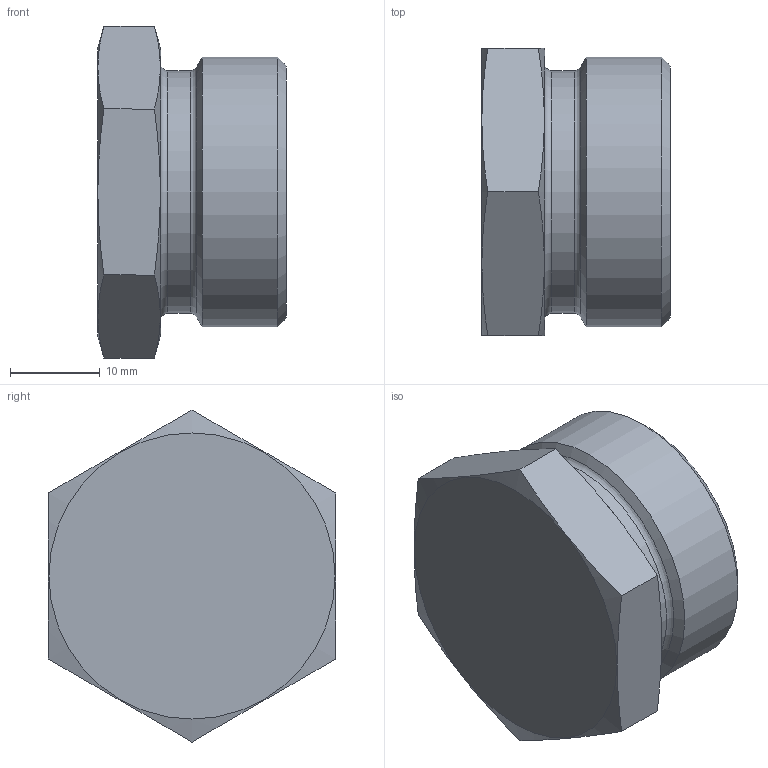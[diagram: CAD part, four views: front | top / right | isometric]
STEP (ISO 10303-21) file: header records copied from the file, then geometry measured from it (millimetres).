
FILE_DESCRIPTION( ( 'Unknown' ), '1' );
FILE_NAME( 'C:/Users/p.nanko/Desktop/3D SR/XROV22L.stp', 'Unknown', ( 'Peter Nanko' ), ( 'Armaturen Arndt' ), 'PSStep 14.0', 'Solid Edge ST4', ' ' );
FILE_SCHEMA( ( 'AUTOMOTIVE_DESIGN { 1 0 10303 214 1 1 1 1 }' ) );
Length unit declared in the file: millimetre
Products named in the file (1): 1
Bounding box: 21 x 32 x 36.95 mm (x, y, z)
Volume: 9703.4 mm3; surface area: 4930.4 mm2
Topology: 1 solids, 1 shells, 22 faces, 45 edges, 28 vertices
Faces by surface type: plane 11, cone 5, cylinder 4, torus 2
Full cylindrical faces by diameter (mm): 19 x1, 22 x1, 27 x1, 30 x1
Entity records: 770 total; most frequent: CARTESIAN_POINT 181, DIRECTION 80, ORIENTED_EDGE 64, AXIS2_PLACEMENT_3D 37, EDGE_LOOP 36, EDGE_CURVE 32, FACE_OUTER_BOUND 28, VERTEX_POINT 26
